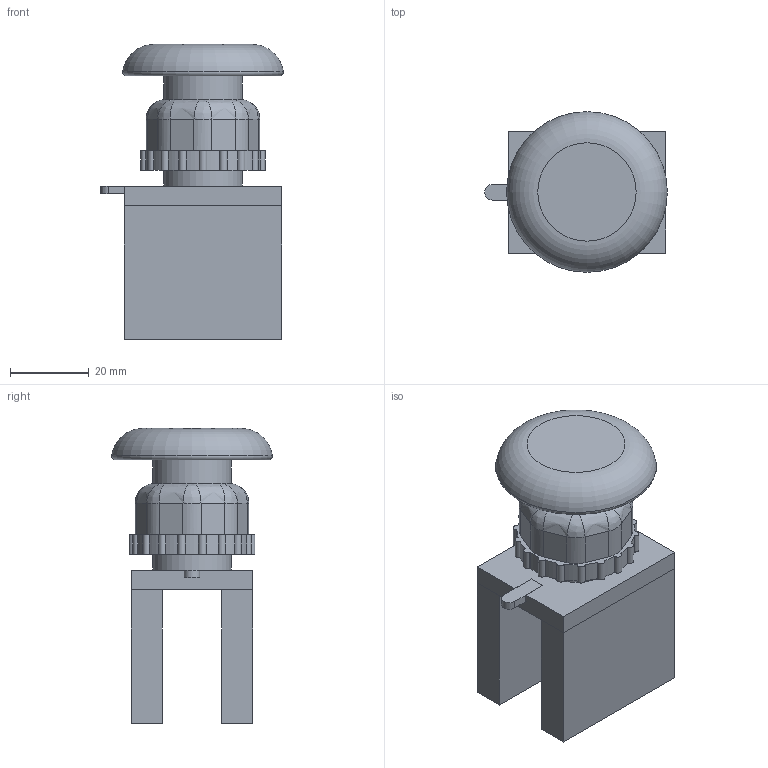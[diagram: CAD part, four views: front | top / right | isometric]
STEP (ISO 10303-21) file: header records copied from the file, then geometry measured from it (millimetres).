
FILE_DESCRIPTION(/* description */ (''),/* implementation_level */ '2;1');
FILE_NAME(/* name */ 'D:\CHINT3\NP8-M.stp',/* time_stamp */ '2017-12-10T20:56:51+03:00',/* author */ ('RSagdiev'),/* organization */ (''),/* preprocessor_version */ 'ST-DEVELOPER v16.5',/* originating_system */ 'Autodesk Inventor 2017',/* authorisation */ '');
FILE_SCHEMA (('AUTOMOTIVE_DESIGN { 1 0 10303 214 3 1 1 }'));
Length unit declared in the file: millimetre
Products named in the file (1): NP8-M
Bounding box: 46.43 x 40.84 x 75 mm (x, y, z)
Volume: 51475.5 mm3; surface area: 21472.9 mm2
Topology: 9 solids, 9 shells, 146 faces, 370 edges, 241 vertices
Faces by surface type: plane 80, cylinder 48, bspline 16, torus 2
Full cylindrical faces by diameter (mm): 20 x3
Entity records: 4803 total; most frequent: CARTESIAN_POINT 1199, DIRECTION 732, ORIENTED_EDGE 728, EDGE_CURVE 364, AXIS2_PLACEMENT_3D 253, VERTEX_POINT 240, LINE 226, VECTOR 226
